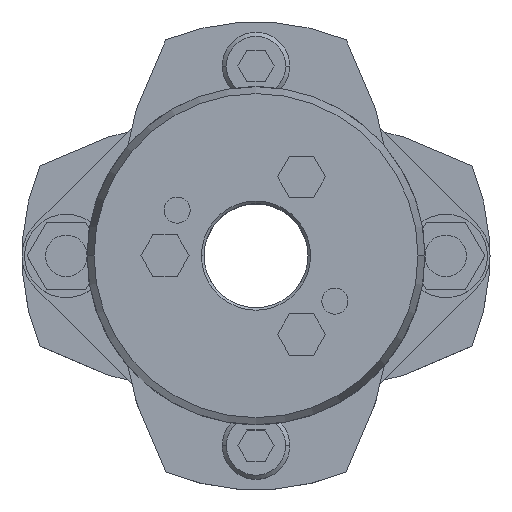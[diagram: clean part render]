
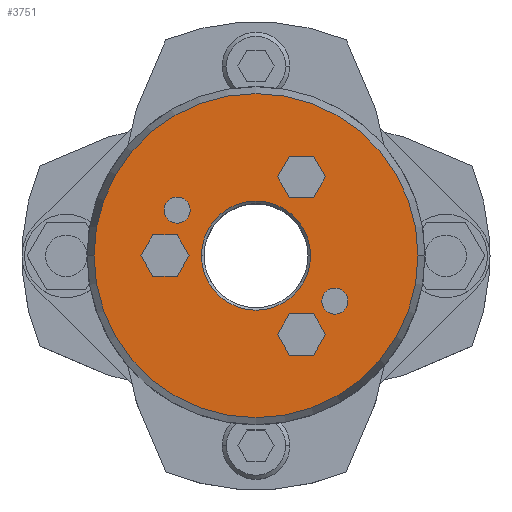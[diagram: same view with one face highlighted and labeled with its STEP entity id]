
A CAD part, top view. The second image highlights one B-rep face of the part: STEP entity #3751.
In plain terms, the highlighted planar face has unit normal (0, 0, 1).
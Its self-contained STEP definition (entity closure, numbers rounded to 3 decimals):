
#1505=CARTESIAN_POINT('',(-10.5,0.,39.25));
#1506=VERTEX_POINT('',#1505);
#1522=CARTESIAN_POINT('',(10.5,0.,39.25));
#1523=VERTEX_POINT('',#1522);
#1530=CARTESIAN_POINT('',(0.,0.,39.25));
#1531=DIRECTION('',(0.0,0.0,1.0));
#1532=DIRECTION('',(-1.0,0.0,0.0));
#1533=AXIS2_PLACEMENT_3D('',#1530,#1531,#1532);
#1534=CIRCLE('',#1533,10.5);
#1535=EDGE_CURVE('',#1523,#1506,#1534,.T.);
#1651=CARTESIAN_POINT('',(31.16,0.,39.25));
#1652=VERTEX_POINT('',#1651);
#1661=CARTESIAN_POINT('',(-31.16,0.,39.25));
#1662=VERTEX_POINT('',#1661);
#1663=CARTESIAN_POINT('',(0.,0.,39.25));
#1664=DIRECTION('',(0.0,0.0,-1.0));
#1665=DIRECTION('',(1.0,0.0,0.0));
#1666=AXIS2_PLACEMENT_3D('',#1663,#1664,#1665);
#1667=CIRCLE('',#1666,31.16);
#1668=EDGE_CURVE('',#1652,#1662,#1667,.T.);
#1985=CARTESIAN_POINT('',(12.655,-8.75,39.25));
#1986=VERTEX_POINT('',#1985);
#2002=CARTESIAN_POINT('',(17.655,-8.75,39.25));
#2003=VERTEX_POINT('',#2002);
#2010=CARTESIAN_POINT('',(15.155,-8.75,39.25));
#2011=DIRECTION('',(0.0,0.0,-1.0));
#2012=DIRECTION('',(-1.0,0.0,0.0));
#2013=AXIS2_PLACEMENT_3D('',#2010,#2011,#2012);
#2014=CIRCLE('',#2013,2.5);
#2015=EDGE_CURVE('',#1986,#2003,#2014,.T.);
#2027=CARTESIAN_POINT('',(-17.655,8.75,39.25));
#2028=VERTEX_POINT('',#2027);
#2044=CARTESIAN_POINT('',(-12.655,8.75,39.25));
#2045=VERTEX_POINT('',#2044);
#2052=CARTESIAN_POINT('',(-15.155,8.75,39.25));
#2053=DIRECTION('',(0.0,0.0,-1.0));
#2054=DIRECTION('',(-1.0,0.0,0.0));
#2055=AXIS2_PLACEMENT_3D('',#2052,#2053,#2054);
#2056=CIRCLE('',#2055,2.5);
#2057=EDGE_CURVE('',#2028,#2045,#2056,.T.);
#2140=CARTESIAN_POINT('',(-15.155,8.75,39.25));
#2141=DIRECTION('',(0.0,0.0,-1.0));
#2142=DIRECTION('',(-1.0,0.0,0.0));
#2143=AXIS2_PLACEMENT_3D('',#2140,#2141,#2142);
#2144=CIRCLE('',#2143,2.5);
#2145=EDGE_CURVE('',#2045,#2028,#2144,.T.);
#2174=CARTESIAN_POINT('',(15.155,-8.75,39.25));
#2175=DIRECTION('',(0.0,0.0,-1.0));
#2176=DIRECTION('',(-1.0,0.0,0.0));
#2177=AXIS2_PLACEMENT_3D('',#2174,#2175,#2176);
#2178=CIRCLE('',#2177,2.5);
#2179=EDGE_CURVE('',#2003,#1986,#2178,.T.);
#2217=CARTESIAN_POINT('',(4.131,15.155,39.25));
#2218=VERTEX_POINT('',#2217);
#2225=CARTESIAN_POINT('',(6.441,11.155,39.25));
#2226=VERTEX_POINT('',#2225);
#2227=CARTESIAN_POINT('',(6.441,11.155,39.25));
#2228=DIRECTION('',(-0.5,0.866,0.0));
#2229=VECTOR('',#2228,4.619);
#2230=LINE('',#2227,#2229);
#2231=EDGE_CURVE('',#2226,#2218,#2230,.T.);
#2255=CARTESIAN_POINT('',(6.441,19.155,39.25));
#2256=VERTEX_POINT('',#2255);
#2263=CARTESIAN_POINT('',(4.131,15.155,39.25));
#2264=DIRECTION('',(0.5,0.866,0.0));
#2265=VECTOR('',#2264,4.619);
#2266=LINE('',#2263,#2265);
#2267=EDGE_CURVE('',#2218,#2256,#2266,.T.);
#2286=CARTESIAN_POINT('',(11.059,19.155,39.25));
#2287=VERTEX_POINT('',#2286);
#2294=CARTESIAN_POINT('',(6.441,19.155,39.25));
#2295=DIRECTION('',(1.0,0.0,0.0));
#2296=VECTOR('',#2295,4.619);
#2297=LINE('',#2294,#2296);
#2298=EDGE_CURVE('',#2256,#2287,#2297,.T.);
#2317=CARTESIAN_POINT('',(13.369,15.155,39.25));
#2318=VERTEX_POINT('',#2317);
#2325=CARTESIAN_POINT('',(11.059,19.155,39.25));
#2326=DIRECTION('',(0.5,-0.866,0.0));
#2327=VECTOR('',#2326,4.619);
#2328=LINE('',#2325,#2327);
#2329=EDGE_CURVE('',#2287,#2318,#2328,.T.);
#2348=CARTESIAN_POINT('',(11.059,11.155,39.25));
#2349=VERTEX_POINT('',#2348);
#2356=CARTESIAN_POINT('',(13.369,15.155,39.25));
#2357=DIRECTION('',(-0.5,-0.866,0.0));
#2358=VECTOR('',#2357,4.619);
#2359=LINE('',#2356,#2358);
#2360=EDGE_CURVE('',#2318,#2349,#2359,.T.);
#2378=CARTESIAN_POINT('',(11.059,11.155,39.25));
#2379=DIRECTION('',(-1.0,0.0,0.0));
#2380=VECTOR('',#2379,4.619);
#2381=LINE('',#2378,#2380);
#2382=EDGE_CURVE('',#2349,#2226,#2381,.T.);
#2417=CARTESIAN_POINT('',(-22.119,0.,39.25));
#2418=VERTEX_POINT('',#2417);
#2425=CARTESIAN_POINT('',(-19.809,-4.,39.25));
#2426=VERTEX_POINT('',#2425);
#2427=CARTESIAN_POINT('',(-19.809,-4.,39.25));
#2428=DIRECTION('',(-0.5,0.866,0.0));
#2429=VECTOR('',#2428,4.619);
#2430=LINE('',#2427,#2429);
#2431=EDGE_CURVE('',#2426,#2418,#2430,.T.);
#2455=CARTESIAN_POINT('',(-19.809,4.,39.25));
#2456=VERTEX_POINT('',#2455);
#2463=CARTESIAN_POINT('',(-22.119,0.,39.25));
#2464=DIRECTION('',(0.5,0.866,0.0));
#2465=VECTOR('',#2464,4.619);
#2466=LINE('',#2463,#2465);
#2467=EDGE_CURVE('',#2418,#2456,#2466,.T.);
#2486=CARTESIAN_POINT('',(-15.191,4.,39.25));
#2487=VERTEX_POINT('',#2486);
#2494=CARTESIAN_POINT('',(-19.809,4.,39.25));
#2495=DIRECTION('',(1.0,0.0,0.0));
#2496=VECTOR('',#2495,4.619);
#2497=LINE('',#2494,#2496);
#2498=EDGE_CURVE('',#2456,#2487,#2497,.T.);
#2517=CARTESIAN_POINT('',(-12.881,0.,39.25));
#2518=VERTEX_POINT('',#2517);
#2525=CARTESIAN_POINT('',(-15.191,4.,39.25));
#2526=DIRECTION('',(0.5,-0.866,0.0));
#2527=VECTOR('',#2526,4.619);
#2528=LINE('',#2525,#2527);
#2529=EDGE_CURVE('',#2487,#2518,#2528,.T.);
#2548=CARTESIAN_POINT('',(-15.191,-4.,39.25));
#2549=VERTEX_POINT('',#2548);
#2556=CARTESIAN_POINT('',(-12.881,0.,39.25));
#2557=DIRECTION('',(-0.5,-0.866,0.0));
#2558=VECTOR('',#2557,4.619);
#2559=LINE('',#2556,#2558);
#2560=EDGE_CURVE('',#2518,#2549,#2559,.T.);
#2578=CARTESIAN_POINT('',(-15.191,-4.,39.25));
#2579=DIRECTION('',(-1.0,0.0,0.0));
#2580=VECTOR('',#2579,4.619);
#2581=LINE('',#2578,#2580);
#2582=EDGE_CURVE('',#2549,#2426,#2581,.T.);
#2617=CARTESIAN_POINT('',(4.131,-15.155,39.25));
#2618=VERTEX_POINT('',#2617);
#2625=CARTESIAN_POINT('',(6.441,-19.155,39.25));
#2626=VERTEX_POINT('',#2625);
#2627=CARTESIAN_POINT('',(6.441,-19.155,39.25));
#2628=DIRECTION('',(-0.5,0.866,0.0));
#2629=VECTOR('',#2628,4.619);
#2630=LINE('',#2627,#2629);
#2631=EDGE_CURVE('',#2626,#2618,#2630,.T.);
#2655=CARTESIAN_POINT('',(6.441,-11.155,39.25));
#2656=VERTEX_POINT('',#2655);
#2663=CARTESIAN_POINT('',(4.131,-15.155,39.25));
#2664=DIRECTION('',(0.5,0.866,0.0));
#2665=VECTOR('',#2664,4.619);
#2666=LINE('',#2663,#2665);
#2667=EDGE_CURVE('',#2618,#2656,#2666,.T.);
#2686=CARTESIAN_POINT('',(11.059,-11.155,39.25));
#2687=VERTEX_POINT('',#2686);
#2694=CARTESIAN_POINT('',(6.441,-11.155,39.25));
#2695=DIRECTION('',(1.0,0.0,0.0));
#2696=VECTOR('',#2695,4.619);
#2697=LINE('',#2694,#2696);
#2698=EDGE_CURVE('',#2656,#2687,#2697,.T.);
#2717=CARTESIAN_POINT('',(13.369,-15.155,39.25));
#2718=VERTEX_POINT('',#2717);
#2725=CARTESIAN_POINT('',(11.059,-11.155,39.25));
#2726=DIRECTION('',(0.5,-0.866,0.0));
#2727=VECTOR('',#2726,4.619);
#2728=LINE('',#2725,#2727);
#2729=EDGE_CURVE('',#2687,#2718,#2728,.T.);
#2748=CARTESIAN_POINT('',(11.059,-19.155,39.25));
#2749=VERTEX_POINT('',#2748);
#2756=CARTESIAN_POINT('',(13.369,-15.155,39.25));
#2757=DIRECTION('',(-0.5,-0.866,0.0));
#2758=VECTOR('',#2757,4.619);
#2759=LINE('',#2756,#2758);
#2760=EDGE_CURVE('',#2718,#2749,#2759,.T.);
#2778=CARTESIAN_POINT('',(11.059,-19.155,39.25));
#2779=DIRECTION('',(-1.0,0.0,0.0));
#2780=VECTOR('',#2779,4.619);
#2781=LINE('',#2778,#2780);
#2782=EDGE_CURVE('',#2749,#2626,#2781,.T.);
#3690=CARTESIAN_POINT('',(0.,0.,39.25));
#3691=DIRECTION('',(0.0,0.0,-1.0));
#3692=DIRECTION('',(1.0,0.0,0.0));
#3693=AXIS2_PLACEMENT_3D('',#3690,#3691,#3692);
#3694=CIRCLE('',#3693,31.16);
#3695=EDGE_CURVE('',#1662,#1652,#3694,.T.);
#3700=CARTESIAN_POINT('',(-2.682,0.,39.25));
#3701=DIRECTION('',(0.0,0.0,1.0));
#3702=DIRECTION('',(-1.0,0.0,0.0));
#3703=AXIS2_PLACEMENT_3D('',#3700,#3701,#3702);
#3704=PLANE('',#3703);
#3705=ORIENTED_EDGE('',*,*,#3695,.F.);
#3706=ORIENTED_EDGE('',*,*,#1668,.F.);
#3707=EDGE_LOOP('',(#3705,#3706));
#3708=FACE_OUTER_BOUND('',#3707,.T.);
#3709=ORIENTED_EDGE('',*,*,#2057,.T.);
#3710=ORIENTED_EDGE('',*,*,#2145,.T.);
#3711=EDGE_LOOP('',(#3709,#3710));
#3712=FACE_BOUND('',#3711,.T.);
#3713=ORIENTED_EDGE('',*,*,#2015,.T.);
#3714=ORIENTED_EDGE('',*,*,#2179,.T.);
#3715=EDGE_LOOP('',(#3713,#3714));
#3716=FACE_BOUND('',#3715,.T.);
#3717=ORIENTED_EDGE('',*,*,#2231,.T.);
#3718=ORIENTED_EDGE('',*,*,#2267,.T.);
#3719=ORIENTED_EDGE('',*,*,#2298,.T.);
#3720=ORIENTED_EDGE('',*,*,#2329,.T.);
#3721=ORIENTED_EDGE('',*,*,#2360,.T.);
#3722=ORIENTED_EDGE('',*,*,#2382,.T.);
#3723=EDGE_LOOP('',(#3717,#3718,#3719,#3720,#3721,#3722));
#3724=FACE_BOUND('',#3723,.T.);
#3725=ORIENTED_EDGE('',*,*,#2431,.T.);
#3726=ORIENTED_EDGE('',*,*,#2467,.T.);
#3727=ORIENTED_EDGE('',*,*,#2498,.T.);
#3728=ORIENTED_EDGE('',*,*,#2529,.T.);
#3729=ORIENTED_EDGE('',*,*,#2560,.T.);
#3730=ORIENTED_EDGE('',*,*,#2582,.T.);
#3731=EDGE_LOOP('',(#3725,#3726,#3727,#3728,#3729,#3730));
#3732=FACE_BOUND('',#3731,.T.);
#3733=ORIENTED_EDGE('',*,*,#2631,.T.);
#3734=ORIENTED_EDGE('',*,*,#2667,.T.);
#3735=ORIENTED_EDGE('',*,*,#2698,.T.);
#3736=ORIENTED_EDGE('',*,*,#2729,.T.);
#3737=ORIENTED_EDGE('',*,*,#2760,.T.);
#3738=ORIENTED_EDGE('',*,*,#2782,.T.);
#3739=EDGE_LOOP('',(#3733,#3734,#3735,#3736,#3737,#3738));
#3740=FACE_BOUND('',#3739,.T.);
#3741=ORIENTED_EDGE('',*,*,#1535,.F.);
#3742=CARTESIAN_POINT('',(0.,0.,39.25));
#3743=DIRECTION('',(0.0,0.0,1.0));
#3744=DIRECTION('',(-1.0,0.0,0.0));
#3745=AXIS2_PLACEMENT_3D('',#3742,#3743,#3744);
#3746=CIRCLE('',#3745,10.5);
#3747=EDGE_CURVE('',#1506,#1523,#3746,.T.);
#3748=ORIENTED_EDGE('',*,*,#3747,.F.);
#3749=EDGE_LOOP('',(#3741,#3748));
#3750=FACE_BOUND('',#3749,.T.);
#3751=ADVANCED_FACE('',(#3708,#3712,#3716,#3724,#3732,#3740,#3750),#3704,.T.);
